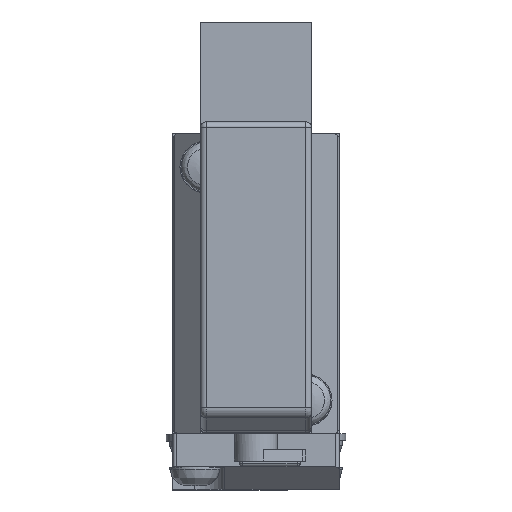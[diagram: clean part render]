
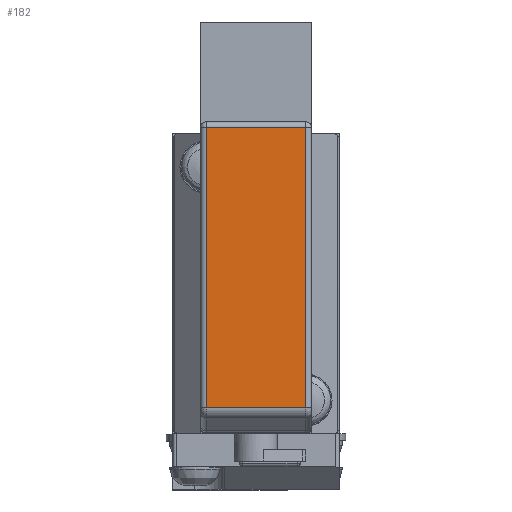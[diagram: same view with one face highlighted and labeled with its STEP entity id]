
A CAD part, top view. The second image highlights one B-rep face of the part: STEP entity #182.
In plain terms, the highlighted planar face has unit normal (0, 0, 1).
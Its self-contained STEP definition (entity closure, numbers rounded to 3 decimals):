
#182=ADVANCED_FACE('',(#1192),#1191,.F.);
#1191=PLANE('',#3368);
#1192=FACE_OUTER_BOUND('',#3369,.T.);
#3365=CARTESIAN_POINT('',(5.4,-52.983,71.5));
#3366=DIRECTION('',(0.,0.,-1.));
#3367=DIRECTION('',(-1.,0.,0.));
#3368=AXIS2_PLACEMENT_3D('',#3365,#3366,#3367);
#3369=EDGE_LOOP('',(#4853,#4854,#4855,#4856));
#4853=ORIENTED_EDGE('',*,*,#5840,.T.);
#4854=ORIENTED_EDGE('',*,*,#5804,.T.);
#4855=ORIENTED_EDGE('',*,*,#5841,.F.);
#4856=ORIENTED_EDGE('',*,*,#5825,.T.);
#5804=EDGE_CURVE('',#7484,#7497,#7504,.T.);
#5825=EDGE_CURVE('',#7615,#7635,#7642,.T.);
#5840=EDGE_CURVE('',#7635,#7484,#7737,.T.);
#5841=EDGE_CURVE('',#7615,#7497,#7743,.T.);
#7484=VERTEX_POINT('',#10875);
#7497=VERTEX_POINT('',#10884);
#7504=LINE('',#10889,#10890);
#7615=VERTEX_POINT('',#10961);
#7635=VERTEX_POINT('',#10975);
#7642=LINE('',#10980,#10981);
#7737=LINE('',#11033,#11034);
#7743=LINE('',#11036,#11037);
#10875=CARTESIAN_POINT('',(-4.5,-25.2,71.5));
#10884=CARTESIAN_POINT('',(-4.5,-50.458,71.5));
#10889=CARTESIAN_POINT('',(-4.5,-25.2,71.5));
#10890=VECTOR('',#10891,25.258);
#10891=DIRECTION('',(0.,-1.,0.));
#10961=CARTESIAN_POINT('',(4.5,-50.458,71.5));
#10975=CARTESIAN_POINT('',(4.5,-25.2,71.5));
#10980=CARTESIAN_POINT('',(4.5,-50.458,71.5));
#10981=VECTOR('',#10982,25.258);
#10982=DIRECTION('',(0.,1.,0.));
#11033=CARTESIAN_POINT('',(4.5,-25.2,71.5));
#11034=VECTOR('',#11035,9.);
#11035=DIRECTION('',(-1.,0.,0.));
#11036=CARTESIAN_POINT('',(4.5,-50.458,71.5));
#11037=VECTOR('',#11038,9.);
#11038=DIRECTION('',(-1.,0.,0.));
